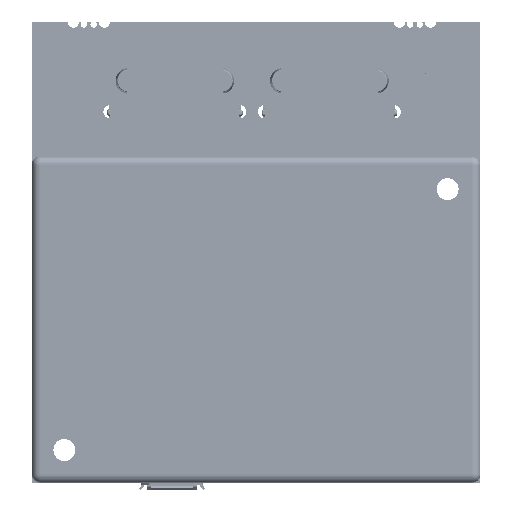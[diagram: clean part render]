
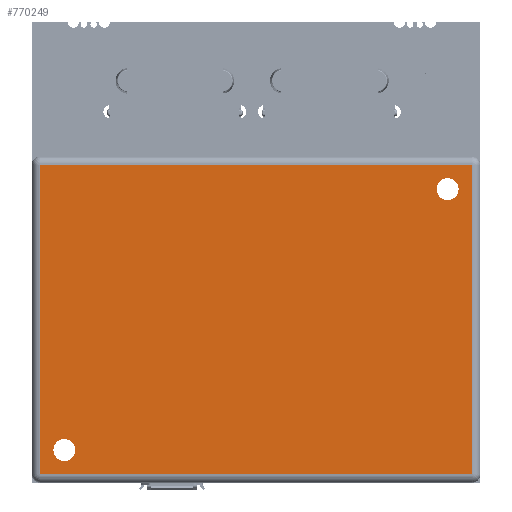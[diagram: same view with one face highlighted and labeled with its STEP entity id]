
A CAD part, front view. The second image highlights one B-rep face of the part: STEP entity #770249.
In plain terms, the highlighted planar face has unit normal (0, -1, 0).
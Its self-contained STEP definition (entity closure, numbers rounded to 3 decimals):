
#768413=DIRECTION('',(1.,0.,0.));
#768414=VECTOR('',#768413,53.);
#768415=CARTESIAN_POINT('',(-26.5,0.,-19.));
#768416=LINE('',#768415,#768414);
#768420=DIRECTION('',(0.,0.,-1.));
#768421=VECTOR('',#768420,38.);
#768422=CARTESIAN_POINT('',(-26.5,0.,19.));
#768423=LINE('',#768422,#768421);
#768427=DIRECTION('',(-1.,0.,0.));
#768428=VECTOR('',#768427,53.);
#768429=CARTESIAN_POINT('',(26.5,0.,19.));
#768430=LINE('',#768429,#768428);
#768434=DIRECTION('',(0.,0.,1.));
#768435=VECTOR('',#768434,38.);
#768436=CARTESIAN_POINT('',(26.5,0.,-19.));
#768437=LINE('',#768436,#768435);
#768441=CARTESIAN_POINT('',(23.5,0.,16.));
#768442=DIRECTION('',(0.,1.,0.));
#768443=DIRECTION('',(-1.,0.,0.));
#768444=AXIS2_PLACEMENT_3D('',#768441,#768442,#768443);
#768449=CARTESIAN_POINT('',(23.5,0.,16.));
#768450=DIRECTION('',(0.,1.,0.));
#768451=DIRECTION('',(1.,0.,0.));
#768452=AXIS2_PLACEMENT_3D('',#768449,#768450,#768451);
#768457=CARTESIAN_POINT('',(-23.5,0.,-16.));
#768458=DIRECTION('',(0.,1.,0.));
#768459=DIRECTION('',(-1.,0.,0.));
#768460=AXIS2_PLACEMENT_3D('',#768457,#768458,#768459);
#768465=CARTESIAN_POINT('',(-23.5,0.,-16.));
#768466=DIRECTION('',(0.,1.,0.));
#768467=DIRECTION('',(1.,0.,0.));
#768468=AXIS2_PLACEMENT_3D('',#768465,#768466,#768467);
#768699=CARTESIAN_POINT('',(-26.5,0.,-19.));
#768700=CARTESIAN_POINT('',(26.5,0.,-19.));
#768701=VERTEX_POINT('',#768699);
#768702=VERTEX_POINT('',#768700);
#768711=CARTESIAN_POINT('',(-26.5,0.,19.));
#768712=VERTEX_POINT('',#768711);
#768719=CARTESIAN_POINT('',(26.5,0.,19.));
#768720=VERTEX_POINT('',#768719);
#768825=CARTESIAN_POINT('',(22.15,0.,16.));
#768826=CARTESIAN_POINT('',(24.85,0.,16.));
#768827=VERTEX_POINT('',#768825);
#768828=VERTEX_POINT('',#768826);
#768829=CARTESIAN_POINT('',(-24.85,0.,-16.));
#768830=CARTESIAN_POINT('',(-22.15,0.,-16.));
#768831=VERTEX_POINT('',#768829);
#768832=VERTEX_POINT('',#768830);
#770224=CARTESIAN_POINT('',(0.,0.,0.));
#770225=DIRECTION('',(0.,1.,0.));
#770226=DIRECTION('',(1.,0.,0.));
#770227=AXIS2_PLACEMENT_3D('',#770224,#770225,#770226);
#770228=PLANE('',#770227);
#770229=ORIENTED_EDGE('',*,*,#770217,.F.);
#770230=ORIENTED_EDGE('',*,*,#769026,.F.);
#770232=ORIENTED_EDGE('',*,*,#770231,.F.);
#770234=ORIENTED_EDGE('',*,*,#770233,.F.);
#770235=EDGE_LOOP('',(#770229,#770230,#770232,#770234));
#770236=FACE_OUTER_BOUND('',#770235,.F.);
#770238=ORIENTED_EDGE('',*,*,#770237,.F.);
#770240=ORIENTED_EDGE('',*,*,#770239,.F.);
#770241=EDGE_LOOP('',(#770238,#770240));
#770242=FACE_BOUND('',#770241,.F.);
#770244=ORIENTED_EDGE('',*,*,#770243,.F.);
#770246=ORIENTED_EDGE('',*,*,#770245,.F.);
#770247=EDGE_LOOP('',(#770244,#770246));
#770248=FACE_BOUND('',#770247,.F.);
#770249=ADVANCED_FACE('',(#770236,#770242,#770248),#770228,.F.);
#768445=CIRCLE('',#768444,1.35);
#768453=CIRCLE('',#768452,1.35);
#768461=CIRCLE('',#768460,1.35);
#768469=CIRCLE('',#768468,1.35);
#769026=EDGE_CURVE('',#768712,#768701,#768423,.T.);
#770217=EDGE_CURVE('',#768701,#768702,#768416,.T.);
#770231=EDGE_CURVE('',#768720,#768712,#768430,.T.);
#770233=EDGE_CURVE('',#768702,#768720,#768437,.T.);
#770237=EDGE_CURVE('',#768827,#768828,#768445,.T.);
#770239=EDGE_CURVE('',#768828,#768827,#768453,.T.);
#770243=EDGE_CURVE('',#768831,#768832,#768461,.T.);
#770245=EDGE_CURVE('',#768832,#768831,#768469,.T.);
